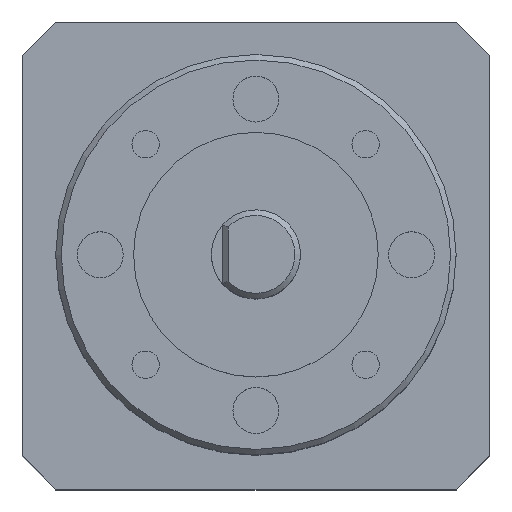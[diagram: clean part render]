
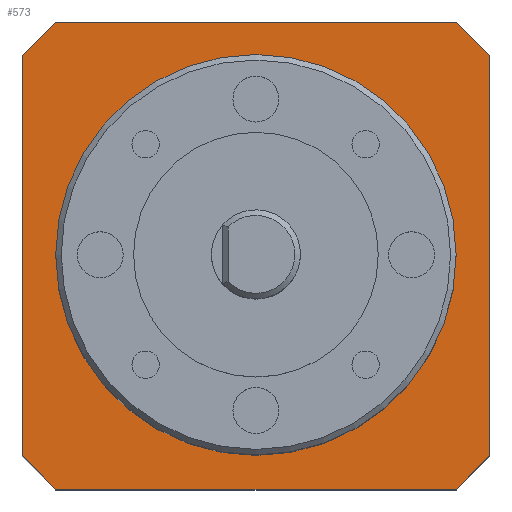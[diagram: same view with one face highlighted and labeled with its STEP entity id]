
A CAD part, top view. The second image highlights one B-rep face of the part: STEP entity #573.
In plain terms, the highlighted planar face has unit normal (0, 0, 1).
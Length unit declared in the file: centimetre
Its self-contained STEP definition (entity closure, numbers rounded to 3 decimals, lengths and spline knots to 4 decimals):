
#231=VERTEX_POINT('',#3145);
#242=VERTEX_POINT('',#3179);
#243=VERTEX_POINT('',#3180);
#244=VERTEX_POINT('',#3182);
#245=VERTEX_POINT('',#3184);
#246=VERTEX_POINT('',#3186);
#247=VERTEX_POINT('',#3188);
#248=VERTEX_POINT('',#3190);
#249=VERTEX_POINT('',#3192);
#279=EDGE_CURVE('',#231,#231,#854,.T.);
#290=EDGE_CURVE('',#242,#243,#1640,.T.);
#291=EDGE_CURVE('',#244,#242,#1641,.T.);
#292=EDGE_CURVE('',#245,#244,#1642,.T.);
#293=EDGE_CURVE('',#246,#245,#1643,.T.);
#294=EDGE_CURVE('',#247,#246,#1644,.T.);
#295=EDGE_CURVE('',#248,#247,#1645,.T.);
#296=EDGE_CURVE('',#249,#248,#1646,.T.);
#297=EDGE_CURVE('',#243,#249,#1647,.T.);
#377=ORIENTED_EDGE('',*,*,#279,.T.);
#378=ORIENTED_EDGE('',*,*,#290,.F.);
#379=ORIENTED_EDGE('',*,*,#291,.F.);
#380=ORIENTED_EDGE('',*,*,#292,.F.);
#381=ORIENTED_EDGE('',*,*,#293,.F.);
#382=ORIENTED_EDGE('',*,*,#294,.F.);
#383=ORIENTED_EDGE('',*,*,#295,.F.);
#384=ORIENTED_EDGE('',*,*,#296,.F.);
#385=ORIENTED_EDGE('',*,*,#297,.F.);
#475=EDGE_LOOP('',(#377));
#476=EDGE_LOOP('',(#378,#379,#380,#381,#382,#383,#384,#385));
#535=FACE_BOUND('',#475,.T.);
#536=FACE_BOUND('',#476,.T.);
#573=ADVANCED_FACE('',(#535,#536),#2414,.T.);
#854=CIRCLE('',#2254,1.8);
#1640=LINE('',#3178,#2362);
#1641=LINE('',#3181,#2363);
#1642=LINE('',#3183,#2364);
#1643=LINE('',#3185,#2365);
#1644=LINE('',#3187,#2366);
#1645=LINE('',#3189,#2367);
#1646=LINE('',#3191,#2368);
#1647=LINE('',#3193,#2369);
#2254=AXIS2_PLACEMENT_3D('',#3144,#2697,#2698);
#2276=AXIS2_PLACEMENT_3D('',#3177,#2735,$);
#2362=VECTOR('',#2736,1.);
#2363=VECTOR('',#2737,1.);
#2364=VECTOR('',#2738,1.);
#2365=VECTOR('',#2739,1.);
#2366=VECTOR('',#2740,1.);
#2367=VECTOR('',#2741,1.);
#2368=VECTOR('',#2742,1.);
#2369=VECTOR('',#2743,1.);
#2414=PLANE('',#2276);
#2697=DIRECTION('',(0.,0.,-1.));
#2698=DIRECTION('',(1.8,0.,0.));
#2735=DIRECTION('',(0.,0.,1.));
#2736=DIRECTION('',(0.,-1.,0.));
#2737=DIRECTION('',(0.707,-0.707,0.));
#2738=DIRECTION('',(1.,0.,0.));
#2739=DIRECTION('',(0.707,0.707,0.));
#2740=DIRECTION('',(0.,1.,0.));
#2741=DIRECTION('',(-0.707,0.707,0.));
#2742=DIRECTION('',(-1.,0.,0.));
#2743=DIRECTION('',(-0.707,-0.707,0.));
#3144=CARTESIAN_POINT('',(2.0993,2.1029,4.5));
#3145=CARTESIAN_POINT('',(3.8993,2.1029,4.5));
#3177=CARTESIAN_POINT('',(2.1,2.1,4.5));
#3178=CARTESIAN_POINT('',(4.2,3.9,4.5));
#3179=CARTESIAN_POINT('',(4.2,3.9,4.5));
#3180=CARTESIAN_POINT('',(4.2,0.3,4.5));
#3181=CARTESIAN_POINT('',(3.9,4.2,4.5));
#3182=CARTESIAN_POINT('',(3.9,4.2,4.5));
#3183=CARTESIAN_POINT('',(0.3,4.2,4.5));
#3184=CARTESIAN_POINT('',(0.3,4.2,4.5));
#3185=CARTESIAN_POINT('',(0.,3.9,4.5));
#3186=CARTESIAN_POINT('',(0.,3.9,4.5));
#3187=CARTESIAN_POINT('',(0.,0.3,4.5));
#3188=CARTESIAN_POINT('',(0.,0.3,4.5));
#3189=CARTESIAN_POINT('',(0.3,0.,4.5));
#3190=CARTESIAN_POINT('',(0.3,0.,4.5));
#3191=CARTESIAN_POINT('',(3.9,0.,4.5));
#3192=CARTESIAN_POINT('',(3.9,0.,4.5));
#3193=CARTESIAN_POINT('',(4.2,0.3,4.5));
